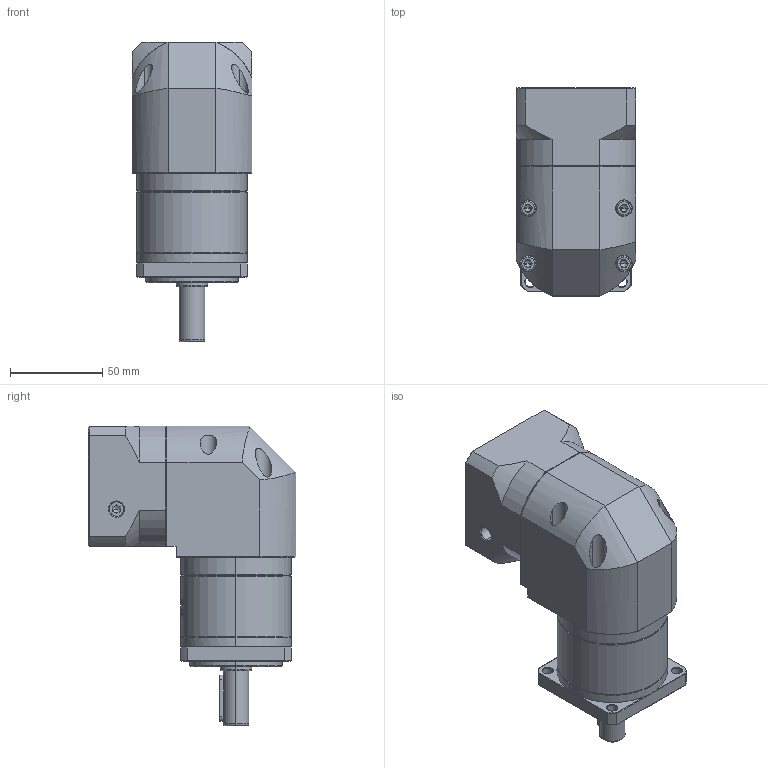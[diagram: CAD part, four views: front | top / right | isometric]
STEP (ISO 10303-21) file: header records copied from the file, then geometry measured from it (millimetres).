
FILE_DESCRIPTION (( 'STEP AP214' ), '1' );
FILE_NAME ('ZFR060-D14-L1-P2-14-60-75-M6.step', '2023-08-17T03:30:22', ( '' ), ( '' ), 'SwSTEP 2.0', 'SolidWorks 2016', '' );
FILE_SCHEMA (( 'AUTOMOTIVE_DESIGN' ));
Length unit declared in the file: millimetre
Products named in the file (1): ZFR060-D14-L1-P2-14-60-75-M6
Bounding box: 65 x 112.7 x 162.5 mm (x, y, z)
Volume: 551022.5 mm3; surface area: 80141.3 mm2
Topology: 5 solids, 6 shells, 1922 faces, 5153 edges, 3328 vertices
Faces by surface type: plane 847, cylinder 407, bspline 354, cone 288, torus 26
Entity records: 106568 total; most frequent: CARTESIAN_POINT 41498, ORIENTED_EDGE 10262, DIRECTION 7686, EDGE_CURVE 5131, VERTEX_POINT 3328, LINE 2612, VECTOR 2612, AXIS2_PLACEMENT_3D 2537
